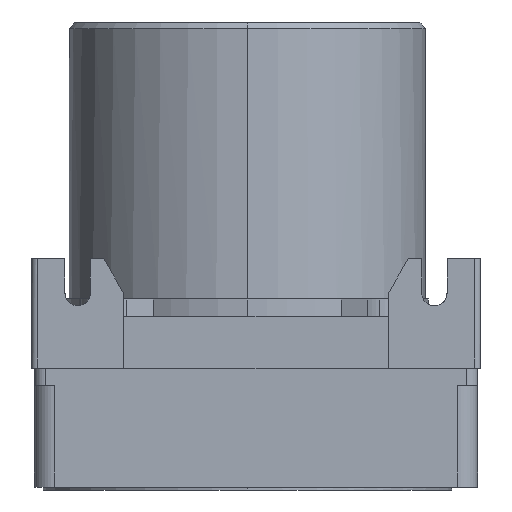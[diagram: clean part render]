
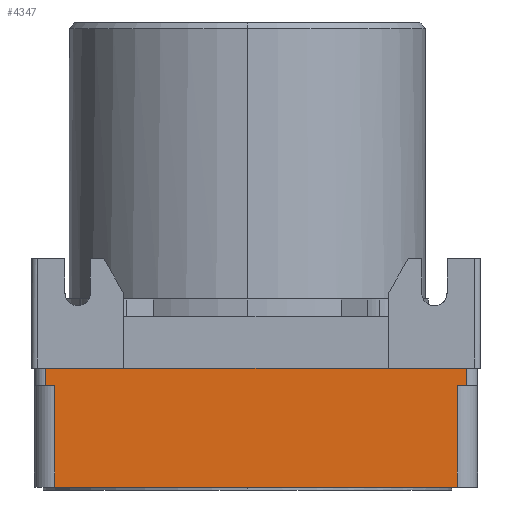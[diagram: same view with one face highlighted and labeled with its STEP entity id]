
A CAD part, left-side view. The second image highlights one B-rep face of the part: STEP entity #4347.
In plain terms, the highlighted planar face has unit normal (-1, 0, 0).
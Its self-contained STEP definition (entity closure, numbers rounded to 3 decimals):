
#75 = LINE ( 'NONE', #5815, #4700 ) ;
#182 = AXIS2_PLACEMENT_3D ( 'NONE', #4663, #11138, #5604 ) ;
#317 = LINE ( 'NONE', #5796, #4961 ) ;
#430 = DIRECTION ( 'NONE',  ( 0., 1., 0. ) ) ;
#926 = ORIENTED_EDGE ( 'NONE', *, *, #2796, .F. ) ;
#931 = VERTEX_POINT ( 'NONE', #9236 ) ;
#1542 = VECTOR ( 'NONE', #9434, 1000. ) ;
#1596 = VERTEX_POINT ( 'NONE', #8846 ) ;
#1798 = EDGE_CURVE ( 'NONE', #11231, #8191, #317, .T. ) ;
#2059 = CARTESIAN_POINT ( 'NONE',  ( -37., 4., -16. ) ) ;
#2152 = LINE ( 'NONE', #5052, #5933 ) ;
#2529 = DIRECTION ( 'NONE',  ( 0., 0., -1. ) ) ;
#2796 = EDGE_CURVE ( 'NONE', #6252, #11231, #75, .T. ) ;
#2802 = VECTOR ( 'NONE', #4134, 1000. ) ;
#2851 = EDGE_CURVE ( 'NONE', #6252, #8721, #10930, .T. ) ;
#3431 = CARTESIAN_POINT ( 'NONE',  ( -37., 77.5, -13. ) ) ;
#3596 = EDGE_CURVE ( 'NONE', #1596, #6615, #8824, .T. ) ;
#3970 = CARTESIAN_POINT ( 'NONE',  ( -37., 2.5, -16. ) ) ;
#4003 = LINE ( 'NONE', #3431, #1542 ) ;
#4134 = DIRECTION ( 'NONE',  ( 0., 0., 1. ) ) ;
#4347 = ADVANCED_FACE ( 'NONE', ( #7059 ), #7387, .F. ) ;
#4663 = CARTESIAN_POINT ( 'NONE',  ( -37., 77.5, -34.2 ) ) ;
#4700 = VECTOR ( 'NONE', #6743, 1000. ) ;
#4961 = VECTOR ( 'NONE', #8623, 1000. ) ;
#5052 = CARTESIAN_POINT ( 'NONE',  ( -37., 77.5, -16. ) ) ;
#5185 = EDGE_CURVE ( 'NONE', #6615, #10584, #4003, .T. ) ;
#5346 = ORIENTED_EDGE ( 'NONE', *, *, #5966, .F. ) ;
#5604 = DIRECTION ( 'NONE',  ( 0., 0., -1. ) ) ;
#5796 = CARTESIAN_POINT ( 'NONE',  ( -37., 75.5, -33.7 ) ) ;
#5815 = CARTESIAN_POINT ( 'NONE',  ( -37., 4., -34.2 ) ) ;
#5933 = VECTOR ( 'NONE', #430, 1000. ) ;
#5966 = EDGE_CURVE ( 'NONE', #10584, #8721, #8066, .T. ) ;
#6101 = ORIENTED_EDGE ( 'NONE', *, *, #3596, .F. ) ;
#6252 = VERTEX_POINT ( 'NONE', #2059 ) ;
#6377 = EDGE_CURVE ( 'NONE', #8191, #931, #9931, .T. ) ;
#6383 = CARTESIAN_POINT ( 'NONE',  ( -37., 4., -33.7 ) ) ;
#6385 = VECTOR ( 'NONE', #8309, 1000. ) ;
#6615 = VERTEX_POINT ( 'NONE', #9246 ) ;
#6743 = DIRECTION ( 'NONE',  ( 0., 0., -1. ) ) ;
#7059 = FACE_OUTER_BOUND ( 'NONE', #10804, .T. ) ;
#7100 = ORIENTED_EDGE ( 'NONE', *, *, #6377, .F. ) ;
#7387 = PLANE ( 'NONE',  #182 ) ;
#7507 = CARTESIAN_POINT ( 'NONE',  ( -37., 2.5, -13. ) ) ;
#7657 = EDGE_CURVE ( 'NONE', #931, #1596, #2152, .T. ) ;
#8066 = LINE ( 'NONE', #9010, #10507 ) ;
#8181 = VECTOR ( 'NONE', #11424, 1000. ) ;
#8191 = VERTEX_POINT ( 'NONE', #11508 ) ;
#8309 = DIRECTION ( 'NONE',  ( 0., 0., 1. ) ) ;
#8337 = ORIENTED_EDGE ( 'NONE', *, *, #1798, .F. ) ;
#8421 = ORIENTED_EDGE ( 'NONE', *, *, #5185, .F. ) ;
#8454 = ORIENTED_EDGE ( 'NONE', *, *, #2851, .T. ) ;
#8623 = DIRECTION ( 'NONE',  ( 0., 1., 0. ) ) ;
#8721 = VERTEX_POINT ( 'NONE', #3970 ) ;
#8824 = LINE ( 'NONE', #11990, #6385 ) ;
#8846 = CARTESIAN_POINT ( 'NONE',  ( -37., 75.5, -16. ) ) ;
#9010 = CARTESIAN_POINT ( 'NONE',  ( -37., 2.5, -34.2 ) ) ;
#9236 = CARTESIAN_POINT ( 'NONE',  ( -37., 74., -16. ) ) ;
#9246 = CARTESIAN_POINT ( 'NONE',  ( -37., 75.5, -13. ) ) ;
#9434 = DIRECTION ( 'NONE',  ( 0., -1., 0. ) ) ;
#9697 = CARTESIAN_POINT ( 'NONE',  ( -37., 74., -34.2 ) ) ;
#9931 = LINE ( 'NONE', #9697, #2802 ) ;
#10494 = CARTESIAN_POINT ( 'NONE',  ( -37., 4., -16. ) ) ;
#10507 = VECTOR ( 'NONE', #2529, 1000. ) ;
#10584 = VERTEX_POINT ( 'NONE', #7507 ) ;
#10804 = EDGE_LOOP ( 'NONE', ( #926, #8454, #5346, #8421, #6101, #10806, #7100, #8337 ) ) ;
#10806 = ORIENTED_EDGE ( 'NONE', *, *, #7657, .F. ) ;
#10930 = LINE ( 'NONE', #10494, #8181 ) ;
#11138 = DIRECTION ( 'NONE',  ( 1., 0., 0. ) ) ;
#11231 = VERTEX_POINT ( 'NONE', #6383 ) ;
#11424 = DIRECTION ( 'NONE',  ( 0., -1., 0. ) ) ;
#11508 = CARTESIAN_POINT ( 'NONE',  ( -37., 74., -33.7 ) ) ;
#11990 = CARTESIAN_POINT ( 'NONE',  ( -37., 75.5, -34.2 ) ) ;
